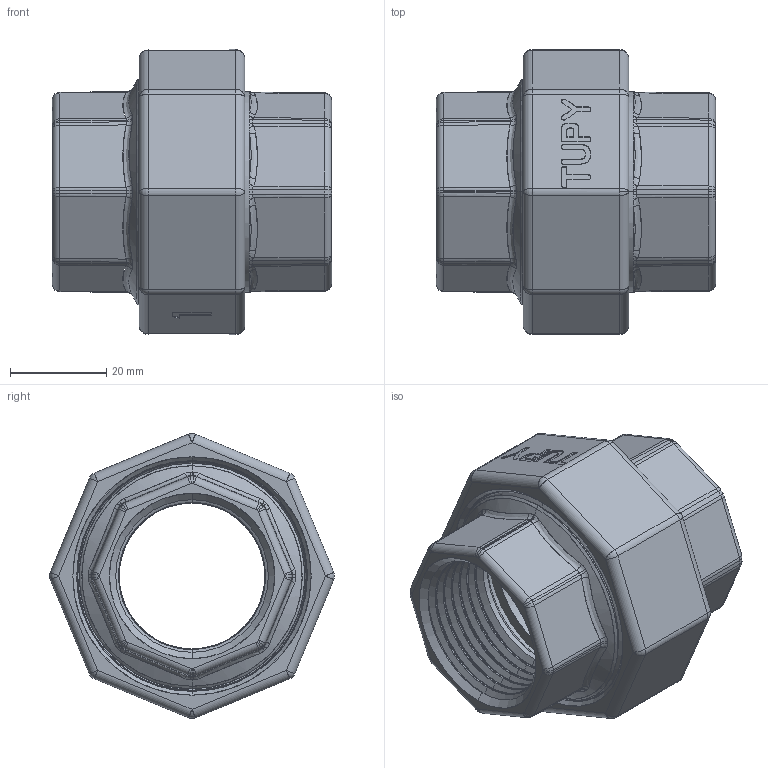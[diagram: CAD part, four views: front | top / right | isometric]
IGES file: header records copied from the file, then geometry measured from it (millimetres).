
Start section: SolidWorks IGES file using analytic representation for surfaces
Global section: file name: C:\Users\Joel Rosa\Desktop\Tubulação\12-62-X\12-62-007.IGS; native system: SolidWorks 2011; preprocessor: SolidWorks 2011; author: Joel Rosa; date: 130721.132450; units: millimetre
Bounding box: 58 x 59.21 x 59.22 mm (x, y, z)
Surface area: 31384.6 mm2 (no closed solid volume)
Topology: 0 solids, 0 shells, 624 faces, 4599 edges, 4593 vertices
Faces by surface type: bspline 409, revolution 215
